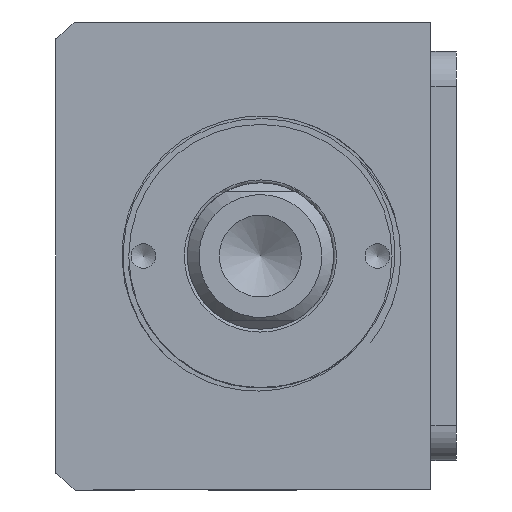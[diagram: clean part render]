
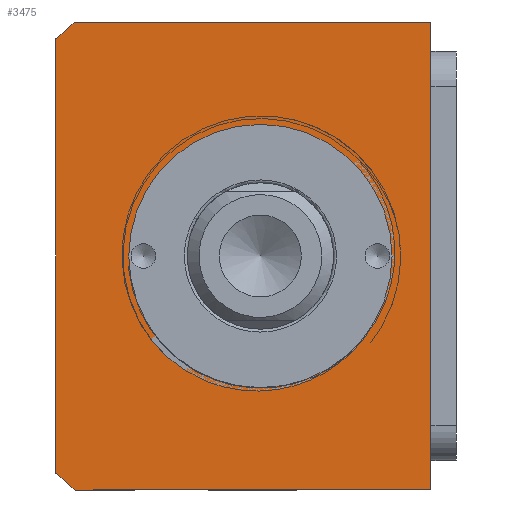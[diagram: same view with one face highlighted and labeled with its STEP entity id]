
A CAD part, front view. The second image highlights one B-rep face of the part: STEP entity #3475.
In plain terms, the highlighted planar face has unit normal (0, -1, 0).
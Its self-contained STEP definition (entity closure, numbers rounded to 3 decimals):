
#826=FACE_BOUND('',#4390,.T.);
#827=FACE_BOUND('',#4391,.T.);
#3144=PLANE('',#11412);
#3475=ADVANCED_FACE('',(#826,#827),#3144,.T.);
#4390=EDGE_LOOP('',(#6912));
#4391=EDGE_LOOP('',(#6913,#6914,#6915,#6916,#6917,#6918));
#4936=LINE('',#13812,#5832);
#4948=LINE('',#14014,#5844);
#4972=LINE('',#14067,#5868);
#4979=LINE('',#14087,#5875);
#5832=VECTOR('',#11873,1.);
#5844=VECTOR('',#11963,1.);
#5868=VECTOR('',#11993,1.);
#5875=VECTOR('',#12010,1.);
#6912=ORIENTED_EDGE('',*,*,#10100,.F.);
#6913=ORIENTED_EDGE('',*,*,#10111,.T.);
#6914=ORIENTED_EDGE('',*,*,#10146,.T.);
#6915=ORIENTED_EDGE('',*,*,#10137,.T.);
#6916=ORIENTED_EDGE('',*,*,#10147,.T.);
#6917=ORIENTED_EDGE('',*,*,#10072,.T.);
#6918=ORIENTED_EDGE('',*,*,#10148,.T.);
#9234=VERTEX_POINT('',#13811);
#9235=VERTEX_POINT('',#13813);
#9261=VERTEX_POINT('',#13987);
#9271=VERTEX_POINT('',#14012);
#9273=VERTEX_POINT('',#14015);
#9298=VERTEX_POINT('',#14066);
#9299=VERTEX_POINT('',#14068);
#10072=EDGE_CURVE('',#9235,#9234,#4936,.T.);
#10100=EDGE_CURVE('',#9261,#9261,#11276,.T.);
#10111=EDGE_CURVE('',#9273,#9271,#4948,.T.);
#10137=EDGE_CURVE('',#9299,#9298,#4972,.T.);
#10146=EDGE_CURVE('',#9271,#9299,#11290,.T.);
#10147=EDGE_CURVE('',#9298,#9235,#11291,.T.);
#10148=EDGE_CURVE('',#9234,#9273,#4979,.T.);
#11276=CIRCLE('',#11389,22.5);
#11290=CIRCLE('',#11410,51.);
#11291=CIRCLE('',#11411,51.);
#11389=AXIS2_PLACEMENT_3D('',#13986,#11932,#11933);
#11410=AXIS2_PLACEMENT_3D('',#14085,#12006,#12007);
#11411=AXIS2_PLACEMENT_3D('',#14086,#12008,#12009);
#11412=AXIS2_PLACEMENT_3D('',#14088,#12011,#12012);
#11873=DIRECTION('',(1.,0.,0.));
#11932=DIRECTION('',(0.,-1.,0.));
#11933=DIRECTION('',(0.,0.,-1.));
#11963=DIRECTION('',(-1.,0.,0.));
#11993=DIRECTION('',(0.,0.,-1.));
#12006=DIRECTION('',(0.,-1.,0.));
#12007=DIRECTION('',(0.,0.,-1.));
#12008=DIRECTION('',(0.,-1.,0.));
#12009=DIRECTION('',(0.,0.,-1.));
#12010=DIRECTION('',(0.,0.,1.));
#12011=DIRECTION('',(0.,-1.,0.));
#12012=DIRECTION('',(0.,0.,1.));
#13811=CARTESIAN_POINT('',(46.616,-41.242,-59.942));
#13812=CARTESIAN_POINT('',(46.616,-41.242,-59.942));
#13813=CARTESIAN_POINT('',(-14.023,-41.242,-59.942));
#13986=CARTESIAN_POINT('',(17.616,-41.242,-19.942));
#13987=CARTESIAN_POINT('',(17.616,-41.242,-42.442));
#14012=CARTESIAN_POINT('',(-14.023,-41.242,20.058));
#14014=CARTESIAN_POINT('',(46.616,-41.242,20.058));
#14015=CARTESIAN_POINT('',(46.616,-41.242,20.058));
#14066=CARTESIAN_POINT('',(-17.384,-41.242,-57.037));
#14067=CARTESIAN_POINT('',(-17.384,-41.242,20.058));
#14068=CARTESIAN_POINT('',(-17.384,-41.242,17.152));
#14085=CARTESIAN_POINT('',(17.616,-41.242,-19.942));
#14086=CARTESIAN_POINT('',(17.616,-41.242,-19.942));
#14087=CARTESIAN_POINT('',(46.616,-41.242,20.058));
#14088=CARTESIAN_POINT('',(14.616,-41.242,-19.942));
